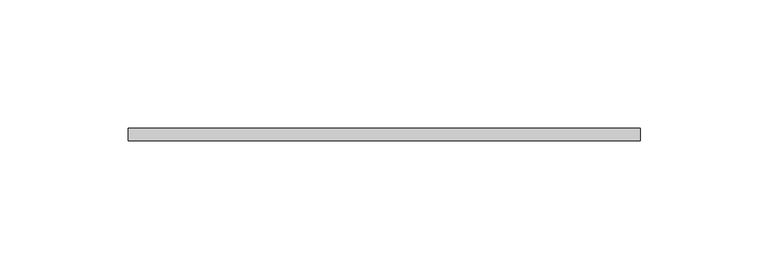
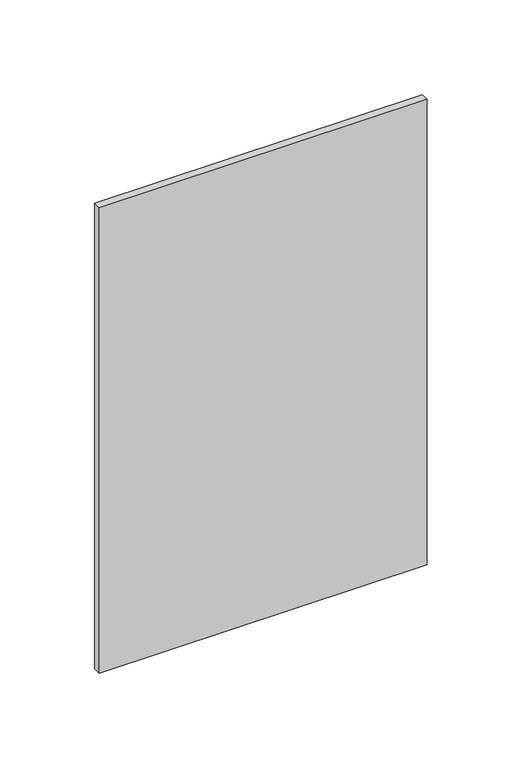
"""IFC4 building model written with IfcOpenShell, lengths in millimetres: damper geometry, ZYR_15.03 Unió Rect Conducte : ZYR_15.03 Unió Rect Conducte."""

import ifcopenshell
import ifcopenshell.guid

model = None  # the IFC model being written
_history = None  # IfcOwnerHistory: only IFC2X3 demands one
_inside = {}  # id of a spatial element -> (the spatial element, [elements in it])
_under = {}  # id of a project, library or spatial element -> (it, [spatial elements below it])
_declared = {}  # id of a project -> (the project, [libraries it declares])
_typed = {}  # id of a type object -> (the type object, [elements of that type])
_made_of = {}  # id of a material, layer set ... -> (it, [elements and type objects made of it])


def new_model(schema):
    """Start an empty IFC model of exactly this schema.

    Asked for "IFC4X3", IfcOpenShell would pick the latest addendum, in which some entities
    have other attributes; the version numbers below select the first issue.
    IFC2X3 requires an IfcOwnerHistory on every rooted entity: one is made here for all.
    """
    global model, _history
    if schema == "IFC4X3":
        model = ifcopenshell.file(schema_version=(4, 3, 0, 0))
    else:
        model = ifcopenshell.file(schema=schema)
    _inside.clear()
    _under.clear()
    _declared.clear()
    _typed.clear()
    _made_of.clear()
    _history = None
    if model.schema == "IFC2X3":
        org = make("IfcOrganization", Name="unknown")
        user = make(
            "IfcPersonAndOrganization",
            ThePerson=make("IfcPerson", FamilyName="unknown"),
            TheOrganization=org,
        )
        app = make(
            "IfcApplication",
            ApplicationDeveloper=org,
            Version="unknown",
            ApplicationFullName="unknown",
            ApplicationIdentifier="unknown",
        )
        _history = make(
            "IfcOwnerHistory",
            OwningUser=user,
            OwningApplication=app,
            ChangeAction="ADDED",
            CreationDate=0,
        )
    return model


def make(cls, **values):
    """One entity of the class cls with the attributes given. An attribute that is None is left unset."""
    return model.create_entity(
        cls, **{name: value for name, value in values.items() if value is not None}
    )


def rooted(cls, **values):
    """An entity with a GlobalId (a new one), such as an element, a storey or a relation."""
    return make(cls, GlobalId=ifcopenshell.guid.new(), OwnerHistory=_history, **values)


def si_unit(unit_type, name, prefix=None):
    """IfcSIUnit, for example si_unit("LENGTHUNIT", "METRE", prefix="MILLI")."""
    return make("IfcSIUnit", UnitType=unit_type, Prefix=prefix, Name=name)


def assignment(units):
    """IfcUnitAssignment: the units of a project."""
    return None if units is None else make("IfcUnitAssignment", Units=units)


def point(xyz):
    """IfcCartesianPoint."""
    return None if xyz is None else make("IfcCartesianPoint", Coordinates=xyz)


def direction(xyz):
    """IfcDirection."""
    return None if xyz is None else make("IfcDirection", DirectionRatios=xyz)


def frame(location, z_axis=None, x_axis=None):
    """IfcAxis2Placement3D, a coordinate frame: its origin and axes. An axis left out is left unset."""
    return make(
        "IfcAxis2Placement3D",
        Location=point(location),
        Axis=direction(z_axis),
        RefDirection=direction(x_axis),
    )


def origin():
    """The frame at (0, 0, 0) with its axes left unset."""
    return frame((0.0, 0.0, 0.0))


def place(relative_to, where):
    """IfcLocalPlacement: puts the frame where relative to a parent placement (None: the world)."""
    return make(
        "IfcLocalPlacement", PlacementRelTo=relative_to, RelativePlacement=where
    )


def context(
    kind, dimensions, precision=None, world=None, true_north=None, identifier=None
):
    """IfcGeometricRepresentationContext, for example the 3D "Model" context."""
    return make(
        "IfcGeometricRepresentationContext",
        ContextIdentifier=identifier,
        ContextType=kind,
        CoordinateSpaceDimension=dimensions,
        Precision=precision,
        WorldCoordinateSystem=world,
        TrueNorth=true_north,
    )


def project(units=None, contexts=None):
    """IfcProject with its units and contexts."""
    return rooted(
        "IfcProject",
        Name="project",
        RepresentationContexts=contexts,
        UnitsInContext=assignment(units),
    )


def spatial(cls, under=None, at=None, **own):
    """A site, building, storey or space (cls), placed at a placement, below another one or the project."""
    s = rooted(cls, ObjectPlacement=at, **own)
    if under is not None:
        _under.setdefault(under.id(), (under, []))[1].append(s)
    return s


def polyline(points):
    """IfcPolyline through the points."""
    return make("IfcPolyline", Points=[point(p) for p in points])


def outline(outer, holes=None, kind="AREA"):
    """IfcArbitraryClosedProfileDef: a profile drawn as a closed curve; with holes, ...WithVoids."""
    if holes is None:
        return make("IfcArbitraryClosedProfileDef", ProfileType=kind, OuterCurve=outer)
    return make(
        "IfcArbitraryProfileDefWithVoids",
        ProfileType=kind,
        OuterCurve=outer,
        InnerCurves=holes,
    )


def extrude(swept, where, along, depth):
    """IfcExtrudedAreaSolid: the profile swept, set in the frame where, extruded along a direction by depth."""
    return make(
        "IfcExtrudedAreaSolid",
        SweptArea=swept,
        Position=where,
        ExtrudedDirection=direction(along),
        Depth=depth,
    )


def shape(context_of_items, identifier, shape_type, items):
    """IfcShapeRepresentation: the items that make up one representation, for example the "Body"."""
    return make(
        "IfcShapeRepresentation",
        ContextOfItems=context_of_items,
        RepresentationIdentifier=identifier,
        RepresentationType=shape_type,
        Items=items,
    )


def source(mapping_origin, context_of_items, identifier, shape_type, items):
    """IfcRepresentationMap: a shape defined once, which mapped items show again and again."""
    return make(
        "IfcRepresentationMap",
        MappingOrigin=mapping_origin,
        MappedRepresentation=shape(context_of_items, identifier, shape_type, items),
    )


def transform(
    local_origin,
    x_axis=None,
    y_axis=None,
    z_axis=None,
    scale=None,
    scale2=None,
    scale3=None,
    uniform=True,
):
    """IfcCartesianTransformationOperator3D, or its non-uniform kind. x_axis, y_axis, z_axis: its Axis1, 2, 3."""
    if uniform:
        return make(
            "IfcCartesianTransformationOperator3D",
            Axis1=direction(x_axis),
            Axis2=direction(y_axis),
            LocalOrigin=point(local_origin),
            Scale=scale,
            Axis3=direction(z_axis),
        )
    return make(
        "IfcCartesianTransformationOperator3DnonUniform",
        Axis1=direction(x_axis),
        Axis2=direction(y_axis),
        LocalOrigin=point(local_origin),
        Scale=scale,
        Axis3=direction(z_axis),
        Scale2=scale2,
        Scale3=scale3,
    )


def mapped(mapping_source, mapping_target):
    """IfcMappedItem: shows the shape of a source again, moved by a transform."""
    return make(
        "IfcMappedItem", MappingSource=mapping_source, MappingTarget=mapping_target
    )


def made_of(thing, what):
    """Note that an element or type object is made of a material, layer set ...; save() writes the relation."""
    if what is not None:
        _made_of.setdefault(what.id(), (what, []))[1].append(thing)
    return thing


def element(
    cls,
    number,
    at=None,
    inside=None,
    cuts=None,
    type_object=None,
    material=None,
    context=None,
    identifier="Body",
    shape_type=None,
    held_by="IfcProductDefinitionShape",
    body=None,
    shapes=None,
    **own,
):
    """One element of the class cls, such as IfcWall. Its Tag is "e" and its number.

    at: its placement. inside: the storey or other place that contains it. cuts: it is an
    opening in that element (IfcRelVoidsElement). A single representation is given by context,
    identifier, shape_type and body (its items); several are given by shapes. held_by: the class
    of the entity that holds the representations. save() writes the other relations.
    """
    e = rooted(cls, Tag="e%d" % number, ObjectPlacement=at, **own)
    if body is not None:
        shapes = [shape(context, identifier, shape_type, body)]
    if shapes is not None:
        e.Representation = make(held_by, Representations=shapes)
    if inside is not None:
        _inside.setdefault(inside.id(), (inside, []))[1].append(e)
    if cuts is not None:
        rooted(
            "IfcRelVoidsElement", RelatingBuildingElement=cuts, RelatedOpeningElement=e
        )
    if type_object is not None:
        _typed.setdefault(type_object.id(), (type_object, []))[1].append(e)
    return made_of(e, material)


def aggregate(whole, parts):
    """IfcRelAggregates: a whole, such as a stair, and the parts it consists of."""
    return rooted("IfcRelAggregates", RelatingObject=whole, RelatedObjects=parts)


def save(model, path):
    """Write the relations noted so far, then the file.

    IfcRelAggregates (storeys below a building ...), IfcRelContainedInSpatialStructure (elements
    in a storey), IfcRelDefinesByType, IfcRelAssociatesMaterial and IfcRelDeclares: one each for
    every whole, place, type object, material and project.
    """
    for whole, parts in _under.values():
        aggregate(whole, parts)
    for where, things in _inside.values():
        rooted(
            "IfcRelContainedInSpatialStructure",
            RelatedElements=things,
            RelatingStructure=where,
        )
    for kind, things in _typed.values():
        rooted("IfcRelDefinesByType", RelatedObjects=things, RelatingType=kind)
    for what, things in _made_of.values():
        rooted("IfcRelAssociatesMaterial", RelatedObjects=things, RelatingMaterial=what)
    for by, libraries in _declared.values():
        rooted("IfcRelDeclares", RelatingContext=by, RelatedDefinitions=libraries)
    model.write(path)


def damper_1687e879(model_context):
    return source(origin(), model_context, "Body", "SweptSolid", [
        extrude(outline(polyline([(100.0, -2.5), (-100.0, -2.5), (-100.0, 2.5), (100.0, 2.5), (100.0, -2.5)])), frame((0.0, 0.0, -150.0), z_axis=(0.0, 0.0, 1.0), x_axis=(1.0, 0.0, 0.0)), (0.0, 0.0, 1.0), 300.0),
    ])


if __name__ == "__main__":
    model = new_model("IFC4")
    model_context = context("Model", 3, world=origin())
    ifc_project = project(units=[si_unit("LENGTHUNIT", "METRE", prefix="MILLI")], contexts=[model_context])
    site = spatial("IfcSite", under=ifc_project)
    building = spatial("IfcBuilding", under=site)
    placement = place(None, origin())
    damper_shape = damper_1687e879(model_context)
    element("IfcDamper", 1, ObjectType="ZYR_15.03 Unió Rect Conducte : ZYR_15.03 Unió Rect Conducte", at=placement, inside=building, context=model_context, shape_type="MappedRepresentation", body=[
        mapped(damper_shape, transform((0.0, 0.0, 0.0), x_axis=(1.0, 0.0, 0.0), y_axis=(0.0, 1.0, 0.0), z_axis=(0.0, 0.0, 1.0))),
    ])
    save(model, "model.ifc")
